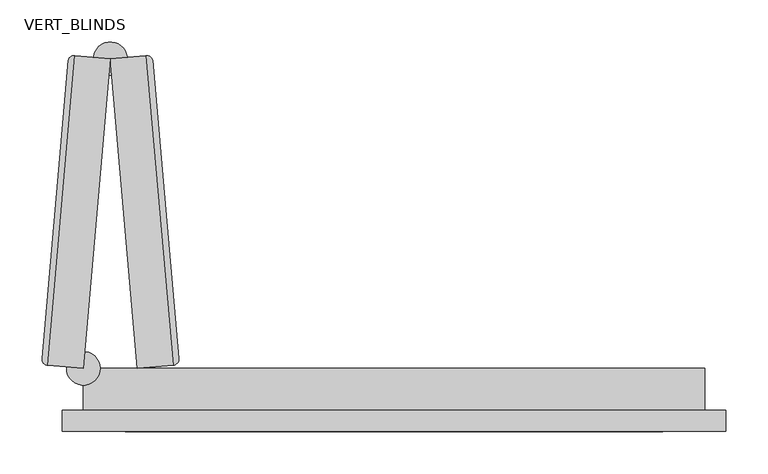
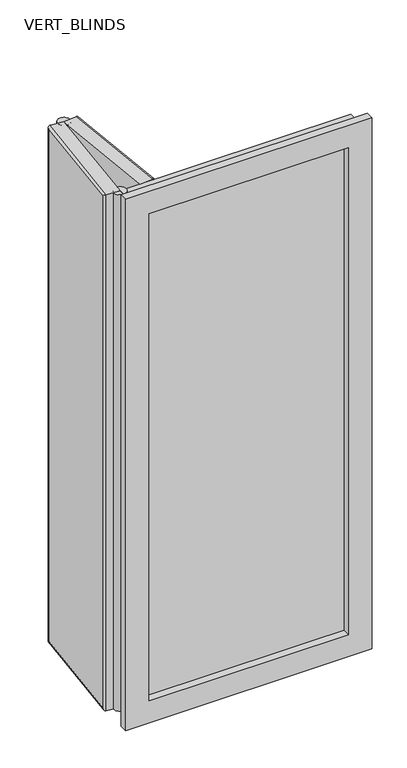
"""IFC4 building model written with IfcOpenShell, lengths in millimetres: plate geometry, CURTAIN PANEL VODA STYLE BIFOLDING : VERT_BLINDS."""

from ifc_helpers import new_model, si_unit, point, frame, frame_2d, origin, place, context, project, spatial, polyline, circle_curve, ellipse_curve, trimmed, segment, composite_curve, outline, extrude, faceted_brep, source, transform, mapped, element, save
from ifc_brep_helpers import plane_surface, cylinder_surface, advanced_brep


def vert_blinds_f8158ca6(model_context):
    return source(origin(), model_context, "Body", "SolidModel", [
        advanced_brep(
        [(-369.9584975, 50.0, 1775.0), (-337.7144899, 418.5506938, 1775.0), (-380.0527646, 422.2548128, 1775.0), (-412.2967722, 53.7041191, 1775.0), (-337.7144899, 418.5506938, 25.0), (-369.9584975, 50.0, 25.0), (-412.2967722, 53.7041191, 25.0), (-380.0527646, 422.2548128, 25.0), (-419.1145644, 61.8292474, 32.5), (-419.1145644, 61.8292474, 1767.5), (-388.1778929, 415.4370207, 1767.5), (-388.1778929, 415.4370207, 32.5)],
        [
            (0, 1),
            (1, 2),
            (2, 3),
            (3, 0),
            (4, 5),
            (5, 6),
            (6, 7),
            (7, 4),
            (1, 4),
            (7, 2),
            (8, 9),
            (9, 10),
            (10, 11),
            (11, 8),
            (5, 0),
            (3, 6),
            (8, 6, ellipse_curve(frame((-411.6431041, 61.1755793, 32.5), z_axis=(-0.061628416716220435, -0.7044160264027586, 0.7071067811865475), x_axis=(-0.061628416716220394, -0.7044160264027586, -0.7071067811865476)), 10.6066017, 7.5)),
            (3, 9, ellipse_curve(frame((-411.6431041, 61.1755793, 1767.5), z_axis=(-0.061628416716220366, -0.7044160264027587, -0.7071067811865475), x_axis=(0.06162841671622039, 0.7044160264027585, -0.7071067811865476)), 10.6066017, 7.5)),
            (11, 7, ellipse_curve(frame((-380.7064326, 414.7833526, 32.5), z_axis=(-0.06162841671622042, -0.7044160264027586, -0.7071067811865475), x_axis=(0.0616284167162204, 0.7044160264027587, -0.7071067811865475)), 10.6066017, 7.5)),
            (10, 2, ellipse_curve(frame((-380.7064326, 414.7833526, 1767.5), z_axis=(0.06162841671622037, 0.7044160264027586, -0.7071067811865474), x_axis=(0.06162841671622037, 0.7044160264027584, 0.7071067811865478)), 10.6066017, 7.5)),
        ],
        [
            plane_surface(frame((-387.5242248, 422.9084809, 1775.0), z_axis=(0.0, 0.0, 1.0), x_axis=(-0.9961946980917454, 0.0871557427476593, 0.0))),
            plane_surface(frame((-387.5242248, 422.9084809, 25.0), z_axis=(0.0, 0.0, -1.0), x_axis=(0.9961946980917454, -0.0871557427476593, 0.0))),
            plane_surface(frame((-337.7144899, 418.5506938, 1775.0), z_axis=(0.0871557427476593, 0.9961946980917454, 0.0), x_axis=(0.0, 0.0, -1.0))),
            plane_surface(frame((-387.5242248, 422.9084809, 1775.0), z_axis=(-0.9961946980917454, 0.08715574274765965, 0.0), x_axis=(0.0, 0.0, -1.0))),
            plane_surface(frame((-419.7682325, 54.3577871, 1775.0), z_axis=(-0.08715574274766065, -0.9961946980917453, 0.0), x_axis=(0.0, 0.0, -1.0))),
            plane_surface(frame((-369.9584975, 50.0, 1775.0), z_axis=(0.9961946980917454, -0.08715574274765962, 0.0), x_axis=(0.0, 0.0, -1.0))),
            cylinder_surface(frame((-411.6431041, 61.1755793, 1775.0), z_axis=(0.0, 0.0, -1.0000000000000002), x_axis=(0.9961946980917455, -0.08715574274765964, 0.0)), 7.5),
            cylinder_surface(frame((-412.2967722, 53.7041191, 32.5), z_axis=(0.08715574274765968, 0.9961946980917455, 0.0), x_axis=(0.9961946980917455, -0.08715574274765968, 0.0)), 7.5),
            cylinder_surface(frame((-380.7064326, 414.7833526, 25.0), z_axis=(0.0, 0.0, 1.0000000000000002), x_axis=(0.9961946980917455, -0.08715574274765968, 0.0)), 7.5),
            cylinder_surface(frame((-380.0527646, 422.2548128, 1767.5), z_axis=(-0.08715574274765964, -0.9961946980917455, 0.0), x_axis=(0.9961946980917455, -0.08715574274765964, 0.0)), 7.5),
        ],
        [
            (0, [[1, 2, 3, 4]]),
            (1, [[5, 6, 7, 8]]),
            (2, [[9, -8, 10, -2]]),
            (3, [[11, 12, 13, 14]]),
            (4, [[15, -4, 16, -6]]),
            (5, [[-1, -15, -5, -9]]),
            (6, [[17, -16, 18, -11]]),
            (7, [[-17, -14, 19, -7]]),
            (8, [[-19, -13, 20, -10]]),
            (9, [[-18, -3, -20, -12]]),
        ],
    ),
        advanced_brep(
        [(-337.7144899, 418.5506938, 1775.0), (-305.4704823, 50.0, 1775.0), (-263.1322076, 53.7041191, 1775.0), (-295.3762152, 422.2548128, 1775.0), (-305.4704823, 50.0, 25.0), (-337.7144899, 418.5506938, 25.0), (-295.3762152, 422.2548128, 25.0), (-263.1322076, 53.7041191, 25.0), (-287.2510869, 415.4370207, 32.5), (-287.2510869, 415.4370207, 1767.5), (-256.3144154, 61.8292474, 1767.5), (-256.3144154, 61.8292474, 32.5)],
        [
            (0, 1),
            (1, 2),
            (2, 3),
            (3, 0),
            (4, 5),
            (5, 6),
            (6, 7),
            (7, 4),
            (1, 4),
            (7, 2),
            (8, 9),
            (9, 10),
            (10, 11),
            (11, 8),
            (5, 0),
            (3, 6),
            (8, 6, ellipse_curve(frame((-294.7225472, 414.7833526, 32.5), z_axis=(-0.0616284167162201, 0.7044160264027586, 0.7071067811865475), x_axis=(-0.06162841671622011, 0.7044160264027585, -0.7071067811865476)), 10.6066017, 7.5)),
            (3, 9, ellipse_curve(frame((-294.7225472, 414.7833526, 1767.5), z_axis=(-0.06162841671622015, 0.7044160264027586, -0.7071067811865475), x_axis=(0.061628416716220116, -0.7044160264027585, -0.7071067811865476)), 10.6066017, 7.5)),
            (11, 7, ellipse_curve(frame((-263.7858757, 61.1755793, 32.5), z_axis=(-0.06162841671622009, 0.7044160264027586, -0.7071067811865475), x_axis=(0.06162841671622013, -0.7044160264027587, -0.7071067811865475)), 10.6066017, 7.5)),
            (10, 2, ellipse_curve(frame((-263.7858757, 61.1755793, 1767.5), z_axis=(0.06162841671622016, -0.7044160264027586, -0.7071067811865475), x_axis=(0.06162841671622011, -0.7044160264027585, 0.7071067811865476)), 10.6066017, 7.5)),
        ],
        [
            plane_surface(frame((-255.6607474, 54.3577871, 1775.0), z_axis=(0.0, 0.0, 1.0), x_axis=(0.9961946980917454, 0.087155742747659, 0.0))),
            plane_surface(frame((-255.6607474, 54.3577871, 25.0), z_axis=(0.0, 0.0, -1.0), x_axis=(-0.9961946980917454, -0.087155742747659, 0.0))),
            plane_surface(frame((-305.4704823, 50.0, 1775.0), z_axis=(0.087155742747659, -0.9961946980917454, 0.0), x_axis=(0.0, 0.0, -1.0))),
            plane_surface(frame((-255.6607474, 54.3577871, 1775.0), z_axis=(0.9961946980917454, 0.08715574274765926, 0.0), x_axis=(0.0, 0.0, -1.0))),
            plane_surface(frame((-287.904755, 422.9084809, 1775.0), z_axis=(-0.08715574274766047, 0.9961946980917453, 0.0), x_axis=(0.0, 0.0, -1.0))),
            plane_surface(frame((-337.7144899, 418.5506938, 1775.0), z_axis=(-0.9961946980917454, -0.0871557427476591, 0.0), x_axis=(0.0, 0.0, -1.0))),
            cylinder_surface(frame((-294.7225472, 414.7833526, 1775.0), z_axis=(0.0, 0.0, -1.0000000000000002), x_axis=(-0.9961946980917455, -0.08715574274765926, 0.0)), 7.5),
            cylinder_surface(frame((-295.3762152, 422.2548128, 32.5), z_axis=(0.08715574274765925, -0.9961946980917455, 0.0), x_axis=(-0.9961946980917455, -0.08715574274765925, 0.0)), 7.5),
            cylinder_surface(frame((-263.7858757, 61.1755793, 25.0), z_axis=(0.0, 0.0, 1.0000000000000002), x_axis=(-0.9961946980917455, -0.08715574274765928, 0.0)), 7.5),
            cylinder_surface(frame((-263.1322076, 53.7041191, 1767.5), z_axis=(-0.08715574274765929, 0.9961946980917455, 0.0), x_axis=(-0.9961946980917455, -0.08715574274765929, 0.0)), 7.5),
        ],
        [
            (0, [[1, 2, 3, 4]]),
            (1, [[5, 6, 7, 8]]),
            (2, [[9, -8, 10, -2]]),
            (3, [[11, 12, 13, 14]]),
            (4, [[15, -4, 16, -6]]),
            (5, [[-1, -15, -5, -9]]),
            (6, [[17, -16, 18, -11]]),
            (7, [[-17, -14, 19, -7]]),
            (8, [[-19, -13, 20, -10]]),
            (9, [[-18, -3, -20, -12]]),
        ],
    ),
        extrude(outline(composite_curve([segment(trimmed(circle_curve(frame_2d((-369.9584975, 50.0)), 20.0), [point((-389.9584975, 50.0))], [point((-349.9584975, 50.0))], False, "CARTESIAN"), True, "CONTINUOUS"), segment(trimmed(circle_curve(frame_2d((-369.9584975, 50.0)), 20.0), [point((-349.9584975, 50.0))], [point((-389.9584975, 50.0))], False, "CARTESIAN"), True, "CONTINUOUS")], self_intersect=False)), frame((0.0, 0.0, 25.0), z_axis=(0.0, 0.0, 1.0), x_axis=(1.0, 0.0, 0.0)), (0.0, 0.0, 1.0), 1750.0),
        extrude(outline(composite_curve([segment(trimmed(circle_curve(frame_2d((-337.7144899, 418.5506938)), 20.0), [point((-339.4576048, 398.6267998))], [point((-335.9713751, 438.4745877))], False, "CARTESIAN"), True, "CONTINUOUS"), segment(trimmed(circle_curve(frame_2d((-337.7144899, 418.5506938)), 20.0), [point((-335.9713751, 438.4745877))], [point((-339.4576048, 398.6267998))], False, "CARTESIAN"), True, "CONTINUOUS")], self_intersect=False)), frame((0.0, 0.0, 25.0), z_axis=(0.0, 0.0, 1.0), x_axis=(1.0, 0.0, 0.0)), (0.0, 0.0, 1.0), 1750.0),
        extrude(outline(polyline([(-319.9584975, 24.0), (319.9584975, 24.0), (319.9584975, 0.0), (-319.9584975, 0.0), (-319.9584975, 24.0)])), frame((0.0, 0.0, 75.0), z_axis=(0.0, 0.0, 1.0), x_axis=(1.0, 0.0, 0.0)), (0.0, 0.0, 1.0), 1650.0),
        faceted_brep([(-319.9584975, 50.0, 1725.0), (-319.9584975, -25.0, 1725.0), (-319.9584975, -25.0, 75.0), (-319.9584975, 50.0, 75.0), (-394.9584975, -25.0, 1800.0), (-394.9584975, 0.0, 1800.0), (-394.9584975, 0.0, 0.0), (-394.9584975, -25.0, 0.0), (-369.9584975, 0.0, 1775.0), (-369.9584975, 50.0, 1775.0), (-369.9584975, 50.0, 25.0), (-369.9584975, 0.0, 25.0), (319.9584975, -25.0, 75.0), (319.9584975, 50.0, 75.0), (394.9584975, 0.0, 0.0), (394.9584975, -25.0, 0.0), (369.9584975, 50.0, 25.0), (369.9584975, 0.0, 25.0), (319.9584975, -25.0, 1725.0), (319.9584975, 50.0, 1725.0), (394.9584975, 0.0, 1800.0), (394.9584975, -25.0, 1800.0), (369.9584975, 50.0, 1775.0), (369.9584975, 0.0, 1775.0)], [[[0, 1, 2, 3]], [[4, 5, 6, 7]], [[8, 9, 10, 11]], [[3, 2, 12, 13]], [[7, 6, 14, 15]], [[11, 10, 16, 17]], [[13, 12, 18, 19]], [[15, 14, 20, 21]], [[17, 16, 22, 23]], [[9, 22, 16, 10], [3, 13, 19, 0]], [[19, 18, 1, 0]], [[7, 15, 21, 4], [1, 18, 12, 2]], [[21, 20, 5, 4]], [[5, 20, 14, 6], [11, 17, 23, 8]], [[23, 22, 9, 8]]]),
    ])


if __name__ == "__main__":
    model = new_model("IFC4")
    model_context = context("Model", 3, world=origin())
    ifc_project = project(units=[si_unit("LENGTHUNIT", "METRE", prefix="MILLI")], contexts=[model_context])
    site = spatial("IfcSite", under=ifc_project)
    building = spatial("IfcBuilding", under=site)
    placement = place(None, origin())
    vert_blinds_shape = vert_blinds_f8158ca6(model_context)
    element("IfcPlate", 1, ObjectType="CURTAIN PANEL VODA STYLE BIFOLDING : VERT_BLINDS", at=placement, inside=building, context=model_context, shape_type="MappedRepresentation", body=[
        mapped(vert_blinds_shape, transform((0.0, 0.0, 0.0), x_axis=(1.0, 0.0, 0.0), y_axis=(0.0, 1.0, 0.0), z_axis=(0.0, 0.0, 1.0))),
    ])
    save(model, "model.ifc")
